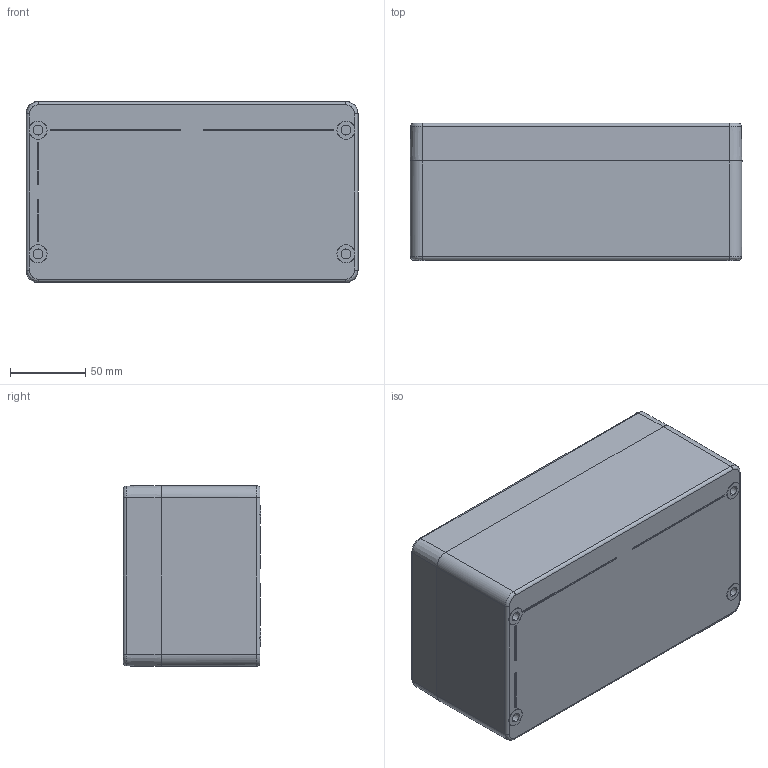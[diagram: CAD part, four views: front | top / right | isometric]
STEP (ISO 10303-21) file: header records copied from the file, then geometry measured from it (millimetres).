
FILE_DESCRIPTION((''),'2;1');
FILE_NAME('4244000000_ASM','2023-12-01T11:21:11',('silke.otte'),(''),'CREO PARAMETRIC BY PTC INC, 2022124','CREO PARAMETRIC BY PTC INC, 2022124','');
FILE_SCHEMA(('AUTOMOTIVE_DESIGN { 1 0 10303 214 1 1 1 1 }'));
Length unit declared in the file: millimetre
Products named in the file (12): 9331006000; 9502218000; 9502217000; 9331006000_ASM; 9332006000; CP-DICHTUNG_35; 9614003600_ASM; 9262006000; 9261027000; 9258857000; 9258838000; 4244000000_ASM
Assembly tree (26 placements, depth 3):
  4244000000_ASM
    9331006000_ASM
      9331006000
      9502218000  x6
      9502217000  x4
    9614003600_ASM
      9332006000
      CP-DICHTUNG_35
    9262006000  x4
    9261027000  x4
    9258857000  x2
    9258838000
Bounding box: 220 x 91.1 x 120 mm (x, y, z)
Volume: 559800.1 mm3; surface area: 255136.6 mm2
Topology: 24 solids, 38 shells, 2259 faces, 9803 edges, 11314 vertices
Faces by surface type: plane 1623, cone 404, cylinder 182, bspline 26, torus 24
Entity records: 53243 total; most frequent: CARTESIAN_POINT 11821, DIRECTION 6492, ORIENTED_EDGE 3948, VECTOR 3191, LINE 3191, PRESENTATION_STYLE_ASSIGNMENT 2359, STYLED_ITEM 2338, CURVE_STYLE 2327
